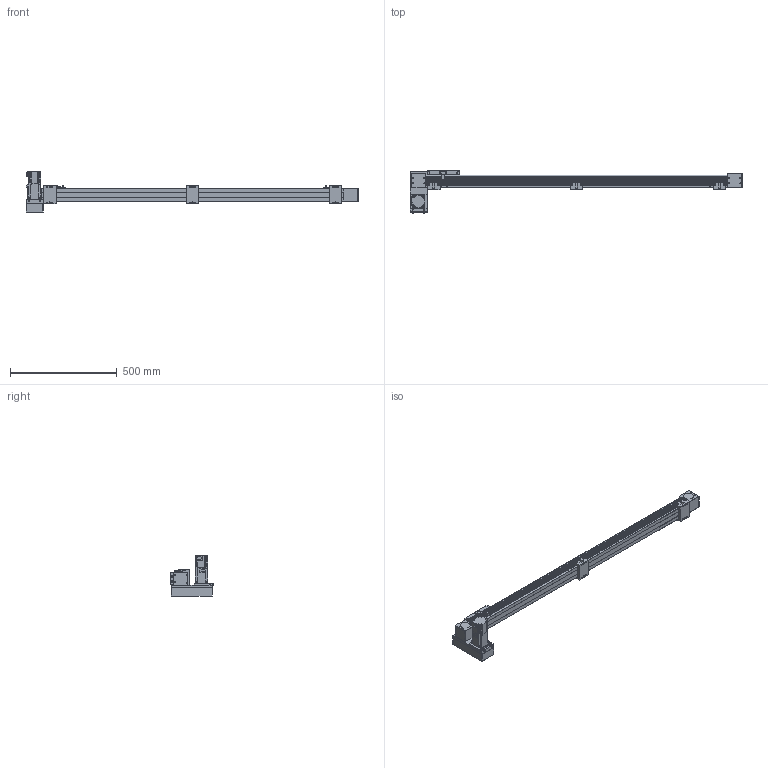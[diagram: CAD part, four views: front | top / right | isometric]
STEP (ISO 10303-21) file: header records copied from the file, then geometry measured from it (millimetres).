
FILE_DESCRIPTION(/* description */ ('STEP AP214'),/* implementation_level */ '2;1');
FILE_NAME(/* name */ 'SK60-P13-S1250-LD-T40-C1-N(0)',/* time_stamp */ '2023-04-06T04:38:53+02:00',/* author */ ('License CC BY-ND 4.0'),/* organization */ ('CADENAS'),/* preprocessor_version */ 'ST-DEVELOPER v19.3',/* originating_system */ 'PARTsolutions',/* authorisation */ ' ');
FILE_SCHEMA (('AUTOMOTIVE_DESIGN {1 0 10303 214 3 1 1}'));
Length unit declared in the file: millimetre
Products named in the file (10): SK60-P13-S1250-LD-T40-C1-N(0); PSC140-sensor; SK60-S450_seat; SK60-S450-BL-C1_slider; SK60_body3; SK60_body6; SK60-BL_body2; T40-p1; SK60-LD_fb; SK60-S1250-LD-C1_body
Assembly tree (17 placements, depth 2):
  SK60-P13-S1250-LD-T40-C1-N(0)
    PSC140-sensor  x3
    SK60-S450_seat  x3
    SK60-S450-BL-C1_slider
    SK60_body3  x3
    SK60_body6  x2
    SK60-BL_body2  x2
    T40-p1
    SK60-LD_fb
    SK60-S1250-LD-C1_body
Bounding box: 1555.5 x 199 x 189.7 mm (x, y, z)
Volume: 6480114 mm3; surface area: 800215.6 mm2
Topology: 17 solids, 17 shells, 854 faces, 2146 edges, 1413 vertices
Faces by surface type: plane 548, cylinder 278, cone 26, torus 2
Full cylindrical faces by diameter (mm): 2.8 x3, 3.3 x4, 4 x2, 4.5 x30, 4.6 x3, 4.917 x20, 5 x6, 5.478 x4, 5.5 x23, 6.5 x6, 7 x2, 8 x4, 8.5 x4, 9.988 x4, 10 x12, 14 x1, 47 x3, 50 x2
Entity records: 18663 total; most frequent: DIRECTION 3186, CARTESIAN_POINT 3151, ORIENTED_EDGE 2940, EDGE_CURVE 1470, AXIS2_PLACEMENT_3D 1069, LINE 1048, VECTOR 1048, VERTEX_POINT 1034
